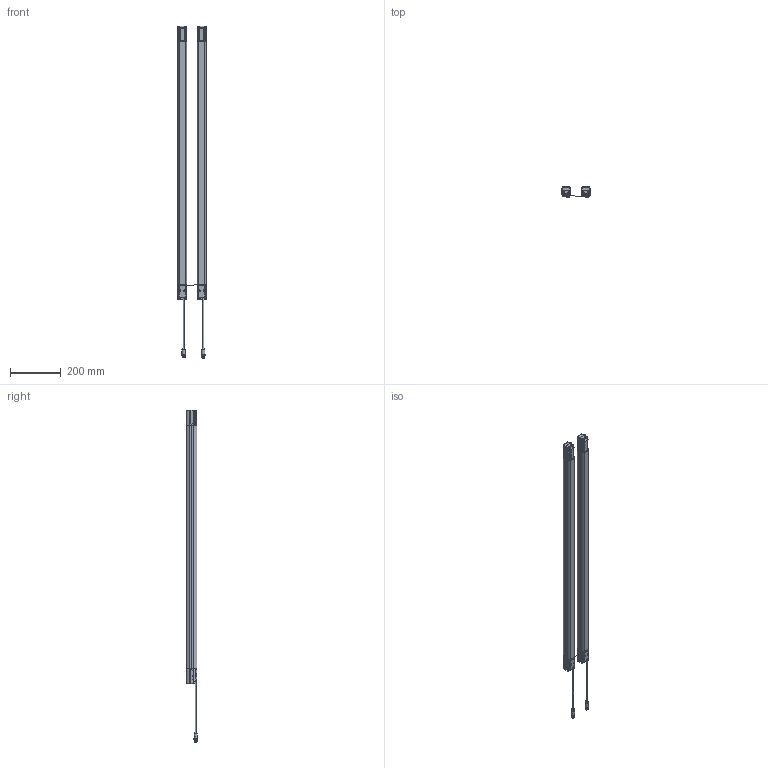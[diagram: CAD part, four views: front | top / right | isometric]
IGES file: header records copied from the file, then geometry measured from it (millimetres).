
Global section: file name: \\bamberg.wienet.ads\dfs\Department\RD\30_Gruppe_RD-PDM\Team\Mitarbeiter\Kötzner_Renate\3-Daten für TC\in Arbeit\P0882-01_Datasensing\R1_620_05_08_09_1200_0\R1_620_0900_0_E_AA.igs; native system: NX V2212; preprocessor: SIEMENS PLM Software NX2212.5000; date: 20240207.101400; units: millimetre
Bounding box: 112.18 x 43.27 x 1302.24 mm (x, y, z)
Surface area: 537550.5 mm2 (no closed solid volume)
Topology: 0 solids, 0 shells, 2661 faces, 17149 edges, 16849 vertices
Faces by surface type: bspline 2661
